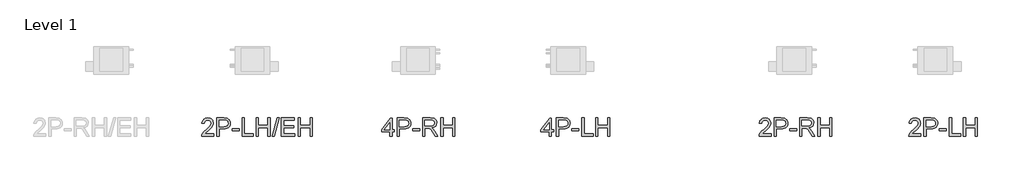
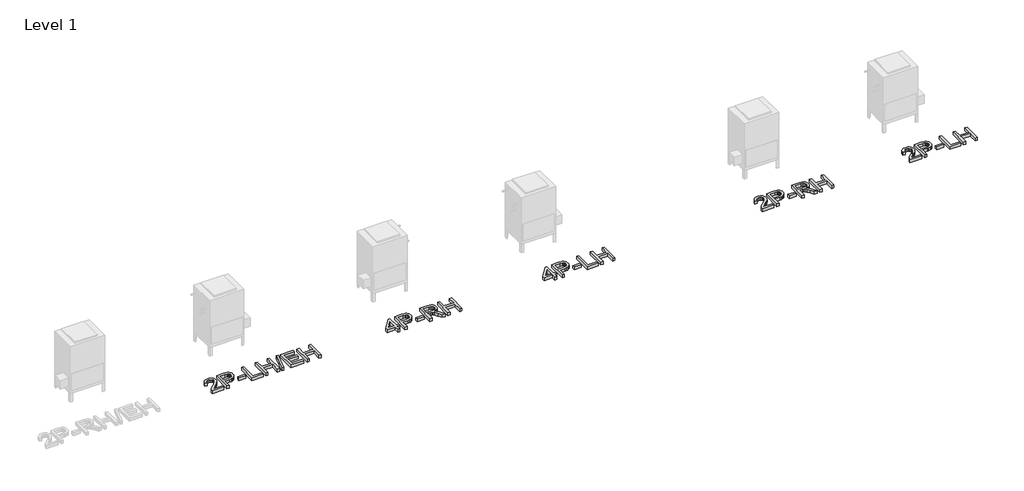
# One storey, part 2 of 2: 5 proxies.
"""IFC4 building model written with IfcOpenShell, lengths in millimetres."""

from ifc_helpers import new_model, si_unit, origin, origin_with_axes, place, context, project, spatial, polyline, outline, extrude, element, save

model = new_model("IFC4")

# Units and contexts
model_context = context("Model", 3, world=origin())
ifc_project = project(units=[si_unit("LENGTHUNIT", "METRE", prefix="MILLI")], contexts=[model_context])

# Site, building, storey
site = spatial("IfcSite", under=ifc_project)
building = spatial("IfcBuilding", under=site)
storey = spatial("IfcBuildingStorey", under=building, Name="Level 1", Elevation=0.0)

# Proxies
placement = place(None, origin())
element("IfcBuildingElementProxy", 1, Name="24\" Arial", ObjectType="24\" Arial", at=placement, inside=storey, context=model_context, shape_type="SweptSolid", body=[
    extrude(outline(polyline([(-19064.4788199, -10849.6503497), (-19064.4788199, -10778.267437), (-19202.4857844, -10778.267437), (-19202.4857844, -10740.1965502), (-19054.9610982, -10549.8421164), (-19026.4079332, -10549.8421164), (-19026.4079332, -10740.1965502), (-18988.3370464, -10740.1965502), (-18988.3370464, -10778.267437), (-19026.4079332, -10778.267437), (-19026.4079332, -10849.6503497), (-19064.4788199, -10849.6503497)]), holes=[polyline([(-19064.4788199, -10740.1965502), (-19064.4788199, -10622.5634587), (-19155.640748, -10740.1965502), (-19064.4788199, -10740.1965502)])]), origin_with_axes(), (0.0, 0.0, 1.0), 50.8),
    extrude(outline(polyline([(-18940.748438, -10849.6503497), (-18940.748438, -10545.0832556), (-18827.8742073, -10545.0832556), (-18782.3676005, -10547.9831864), (-18762.0773793, -10553.4019674), (-18745.3748931, -10562.2225904), (-18731.9255345, -10574.8447252), (-18721.3946959, -10591.6680418), (-18714.591012, -10611.5121198), (-18712.3231174, -10633.1965384), (-18713.854411, -10651.8927271), (-18718.4482918, -10669.0924771), (-18726.1047598, -10684.7957884), (-18736.823815, -10699.002661), (-18751.5395698, -10710.7789827), (-18771.1861364, -10719.190641), (-18795.7635149, -10724.237636), (-18825.2717053, -10725.9199677), (-18902.6775512, -10725.9199677), (-18902.6775512, -10849.6503497), (-18940.748438, -10849.6503497)]), holes=[polyline([(-18902.6775512, -10687.8490809), (-18823.0409893, -10687.8490809), (-18789.2828201, -10684.3542925), (-18766.9756599, -10673.8699272), (-18754.5394181, -10657.0466106), (-18750.3940042, -10634.534968), (-18752.8384971, -10617.4328119), (-18760.1719761, -10603.0075149), (-18771.4835652, -10592.1513636), (-18785.8623889, -10585.7566444), (-18823.9332757, -10583.1541424), (-18902.6775512, -10583.1541424), (-18902.6775512, -10687.8490809)])]), origin_with_axes(), (0.0, 0.0, 1.0), 50.8),
    extrude(outline(polyline([(-18683.7699523, -10759.2319936), (-18683.7699523, -10721.1611069), (-18564.7984312, -10721.1611069), (-18564.7984312, -10759.2319936), (-18683.7699523, -10759.2319936)])), origin_with_axes(), (0.0, 0.0, 1.0), 50.8),
    extrude(outline(polyline([(-18517.2098228, -10849.6503497), (-18517.2098228, -10545.0832556), (-18385.9693635, -10545.0832556), (-18350.6961665, -10547.1373733), (-18325.0336376, -10553.2997263), (-18306.2770337, -10564.676378), (-18291.7216117, -10582.3733917), (-18282.3804883, -10604.3180606), (-18279.2667805, -10628.4376776), (-18284.4253113, -10658.4408081), (-18299.9009037, -10683.3132917), (-18311.6237812, -10693.4491076), (-18326.1582902, -10701.5493952), (-18363.6622033, -10711.6433852), (-18342.0242579, -10727.9276121), (-18311.1660196, -10767.1138569), (-18260.3800516, -10849.6503497), (-18304.622586, -10849.6503497), (-18344.254974, -10786.5210863), (-18372.8824962, -10744.7323395), (-18392.996119, -10724.9905027), (-18411.1020974, -10717.7406756), (-18433.186186, -10716.402246), (-18479.138936, -10716.402246), (-18479.138936, -10849.6503497), (-18517.2098228, -10849.6503497)]), holes=[polyline([(-18479.138936, -10678.3313593), (-18393.925584, -10678.3313593), (-18369.4527703, -10676.983635), (-18350.4638002, -10672.9404622), (-18336.1686284, -10665.932296), (-18325.7772096, -10655.6895916), (-18319.4475529, -10643.2998231), (-18317.3376673, -10629.8504644), (-18321.3622508, -10611.2797535), (-18333.4360012, -10596.3153669), (-18354.2095442, -10586.4444485), (-18384.3335051, -10583.1541424), (-18479.138936, -10583.1541424), (-18479.138936, -10678.3313593)])]), origin_with_axes(), (0.0, 0.0, 1.0), 50.8),
    extrude(outline(polyline([(-18212.6427287, -10849.6503497), (-18212.6427287, -10545.0832556), (-18174.571842, -10545.0832556), (-18174.571842, -10668.8136376), (-18012.7705732, -10668.8136376), (-18012.7705732, -10545.0832556), (-17974.6996865, -10545.0832556), (-17974.6996865, -10849.6503497), (-18012.7705732, -10849.6503497), (-18012.7705732, -10706.8845243), (-18174.571842, -10706.8845243), (-18174.571842, -10849.6503497), (-18212.6427287, -10849.6503497)])), origin_with_axes(), (0.0, 0.0, 1.0), 50.8),
])
element("IfcBuildingElementProxy", 2, Name="24\" Arial", ObjectType="24\" Arial", at=placement, inside=storey, context=model_context, shape_type="SweptSolid", body=[
    extrude(outline(polyline([(-22013.2795196, -10811.5794629), (-22013.2795196, -10849.6503497), (-22213.1516751, -10849.6503497), (-22209.0620291, -10823.4022578), (-22199.6744325, -10802.8889651), (-22185.9369396, -10782.9891192), (-22166.0649778, -10762.1598084), (-22138.273974, -10738.8581206), (-22097.1916206, -10702.3673244), (-22072.5422086, -10675.4314284), (-22060.2175026, -10653.5704114), (-22056.1092672, -10632.304252), (-22059.9851363, -10613.2409247), (-22071.6127436, -10597.3935463), (-22089.4863557, -10586.7139933), (-22112.1002393, -10583.1541424), (-22135.8480703, -10586.6303415), (-22154.2979507, -10597.0589389), (-22166.2043975, -10613.6220053), (-22170.3219275, -10635.5016116), (-22208.3928143, -10630.7427508), (-22205.1187738, -10611.0892132), (-22199.1632267, -10593.9173472), (-22190.5261731, -10579.2271527), (-22179.207613, -10567.0186298), (-22165.4677965, -10557.4219036), (-22149.5669738, -10550.5670991), (-22111.2823101, -10545.0832556), (-22090.8782295, -10546.6075782), (-22072.7188069, -10551.1805461), (-22056.8040423, -10558.8021591), (-22043.1339357, -10569.4724174), (-22032.1546303, -10582.4012757), (-22024.3122693, -10596.7986887), (-22019.6068527, -10612.6646564), (-22018.0383805, -10629.9991788), (-22019.7300068, -10648.2073983), (-22024.8048857, -10666.0995997), (-22033.8114017, -10684.2985246), (-22047.2979389, -10703.4269145), (-22068.7964646, -10726.2638698), (-22101.8389456, -10755.5884908), (-22145.6353369, -10792.2094121), (-22162.8118502, -10811.5794629), (-22013.2795196, -10811.5794629)])), origin_with_axes(), (0.0, 0.0, 1.0), 50.8),
    extrude(outline(polyline([(-21960.9320503, -10849.6503497), (-21960.9320503, -10545.0832556), (-21848.0578197, -10545.0832556), (-21802.5512128, -10547.9831864), (-21782.2609917, -10553.4019674), (-21765.5585055, -10562.2225904), (-21752.1091468, -10574.8447252), (-21741.5783083, -10591.6680418), (-21734.7746244, -10611.5121198), (-21732.5067298, -10633.1965384), (-21734.0380234, -10651.8927271), (-21738.6319042, -10669.0924771), (-21746.2883722, -10684.7957884), (-21757.0074274, -10699.002661), (-21771.7231822, -10710.7789827), (-21791.3697488, -10719.190641), (-21815.9471273, -10724.237636), (-21845.4553176, -10725.9199677), (-21922.8611636, -10725.9199677), (-21922.8611636, -10849.6503497), (-21960.9320503, -10849.6503497)]), holes=[polyline([(-21922.8611636, -10687.8490809), (-21843.2246016, -10687.8490809), (-21809.4664325, -10684.3542925), (-21787.1592723, -10673.8699272), (-21774.7230305, -10657.0466106), (-21770.5776165, -10634.534968), (-21773.0221095, -10617.4328119), (-21780.3555884, -10603.0075149), (-21791.6671776, -10592.1513636), (-21806.0460013, -10585.7566444), (-21844.116888, -10583.1541424), (-21922.8611636, -10583.1541424), (-21922.8611636, -10687.8490809)])]), origin_with_axes(), (0.0, 0.0, 1.0), 50.8),
    extrude(outline(polyline([(-21703.9535647, -10759.2319936), (-21703.9535647, -10721.1611069), (-21584.9820436, -10721.1611069), (-21584.9820436, -10759.2319936), (-21703.9535647, -10759.2319936)])), origin_with_axes(), (0.0, 0.0, 1.0), 50.8),
    extrude(outline(polyline([(-21537.3934351, -10849.6503497), (-21537.3934351, -10545.0832556), (-21499.3225484, -10545.0832556), (-21499.3225484, -10811.5794629), (-21347.0390013, -10811.5794629), (-21347.0390013, -10849.6503497), (-21537.3934351, -10849.6503497)])), origin_with_axes(), (0.0, 0.0, 1.0), 50.8),
    extrude(outline(polyline([(-21304.2092537, -10849.6503497), (-21304.2092537, -10545.0832556), (-21266.138367, -10545.0832556), (-21266.138367, -10668.8136376), (-21104.3370983, -10668.8136376), (-21104.3370983, -10545.0832556), (-21066.2662115, -10545.0832556), (-21066.2662115, -10849.6503497), (-21104.3370983, -10849.6503497), (-21104.3370983, -10706.8845243), (-21266.138367, -10706.8845243), (-21266.138367, -10849.6503497), (-21304.2092537, -10849.6503497)])), origin_with_axes(), (0.0, 0.0, 1.0), 50.8),
    extrude(outline(polyline([(-21032.9541856, -10849.6503497), (-20947.2946904, -10545.0832556), (-20912.9416637, -10545.0832556), (-20998.6011589, -10849.6503497), (-21032.9541856, -10849.6503497)])), origin_with_axes(), (0.0, 0.0, 1.0), 50.8),
    extrude(outline(polyline([(-20880.6706385, -10849.6503497), (-20880.6706385, -10545.0832556), (-20661.7630397, -10545.0832556), (-20661.7630397, -10583.1541424), (-20842.5997518, -10583.1541424), (-20842.5997518, -10673.5724984), (-20671.2807614, -10673.5724984), (-20671.2807614, -10711.6433852), (-20842.5997518, -10711.6433852), (-20842.5997518, -10811.5794629), (-20657.0041788, -10811.5794629), (-20657.0041788, -10849.6503497), (-20880.6706385, -10849.6503497)])), origin_with_axes(), (0.0, 0.0, 1.0), 50.8),
    extrude(outline(polyline([(-20599.8978487, -10849.6503497), (-20599.8978487, -10545.0832556), (-20561.8269619, -10545.0832556), (-20561.8269619, -10668.8136376), (-20400.0256932, -10668.8136376), (-20400.0256932, -10545.0832556), (-20361.9548065, -10545.0832556), (-20361.9548065, -10849.6503497), (-20400.0256932, -10849.6503497), (-20400.0256932, -10706.8845243), (-20561.8269619, -10706.8845243), (-20561.8269619, -10849.6503497), (-20599.8978487, -10849.6503497)])), origin_with_axes(), (0.0, 0.0, 1.0), 50.8),
])
element("IfcBuildingElementProxy", 3, Name="24\" Arial", ObjectType="24\" Arial", at=placement, inside=storey, context=model_context, shape_type="SweptSolid", body=[
    extrude(outline(polyline([(-16399.9579183, -10849.6503497), (-16399.9579183, -10778.267437), (-16537.9648828, -10778.267437), (-16537.9648828, -10740.1965502), (-16390.4401966, -10549.8421164), (-16361.8870316, -10549.8421164), (-16361.8870316, -10740.1965502), (-16323.8161448, -10740.1965502), (-16323.8161448, -10778.267437), (-16361.8870316, -10778.267437), (-16361.8870316, -10849.6503497), (-16399.9579183, -10849.6503497)]), holes=[polyline([(-16399.9579183, -10740.1965502), (-16399.9579183, -10622.5634587), (-16491.1198464, -10740.1965502), (-16399.9579183, -10740.1965502)])]), origin_with_axes(), (0.0, 0.0, 1.0), 50.8),
    extrude(outline(polyline([(-16276.2275364, -10849.6503497), (-16276.2275364, -10545.0832556), (-16163.3533057, -10545.0832556), (-16117.8466989, -10547.9831864), (-16097.5564777, -10553.4019674), (-16080.8539915, -10562.2225904), (-16067.4046329, -10574.8447252), (-16056.8737943, -10591.6680418), (-16050.0701104, -10611.5121198), (-16047.8022158, -10633.1965384), (-16049.3335094, -10651.8927271), (-16053.9273902, -10669.0924771), (-16061.5838582, -10684.7957884), (-16072.3029134, -10699.002661), (-16087.0186682, -10710.7789827), (-16106.6652348, -10719.190641), (-16131.2426133, -10724.237636), (-16160.7508037, -10725.9199677), (-16238.1566496, -10725.9199677), (-16238.1566496, -10849.6503497), (-16276.2275364, -10849.6503497)]), holes=[polyline([(-16238.1566496, -10687.8490809), (-16158.5200877, -10687.8490809), (-16124.7619185, -10684.3542925), (-16102.4547583, -10673.8699272), (-16090.0185165, -10657.0466106), (-16085.8731026, -10634.534968), (-16088.3175956, -10617.4328119), (-16095.6510745, -10603.0075149), (-16106.9626636, -10592.1513636), (-16121.3414873, -10585.7566444), (-16159.4123741, -10583.1541424), (-16238.1566496, -10583.1541424), (-16238.1566496, -10687.8490809)])]), origin_with_axes(), (0.0, 0.0, 1.0), 50.8),
    extrude(outline(polyline([(-16019.2490507, -10759.2319936), (-16019.2490507, -10721.1611069), (-15900.2775296, -10721.1611069), (-15900.2775296, -10759.2319936), (-16019.2490507, -10759.2319936)])), origin_with_axes(), (0.0, 0.0, 1.0), 50.8),
    extrude(outline(polyline([(-15852.6889212, -10849.6503497), (-15852.6889212, -10545.0832556), (-15814.6180344, -10545.0832556), (-15814.6180344, -10811.5794629), (-15662.3344874, -10811.5794629), (-15662.3344874, -10849.6503497), (-15852.6889212, -10849.6503497)])), origin_with_axes(), (0.0, 0.0, 1.0), 50.8),
    extrude(outline(polyline([(-15619.5047398, -10849.6503497), (-15619.5047398, -10545.0832556), (-15581.433853, -10545.0832556), (-15581.433853, -10668.8136376), (-15419.6325843, -10668.8136376), (-15419.6325843, -10545.0832556), (-15381.5616975, -10545.0832556), (-15381.5616975, -10849.6503497), (-15419.6325843, -10849.6503497), (-15419.6325843, -10706.8845243), (-15581.433853, -10706.8845243), (-15581.433853, -10849.6503497), (-15619.5047398, -10849.6503497)])), origin_with_axes(), (0.0, 0.0, 1.0), 50.8),
])
element("IfcBuildingElementProxy", 4, Name="24\" Arial", ObjectType="24\" Arial", at=placement, inside=storey, context=model_context, shape_type="SweptSolid", body=[
    extrude(outline(polyline([(-12683.5732104, -10811.5794629), (-12683.5732104, -10849.6503497), (-12883.4453659, -10849.6503497), (-12879.3557199, -10823.4022578), (-12869.9681233, -10802.8889651), (-12856.2306304, -10782.9891192), (-12836.3586685, -10762.1598084), (-12808.5676648, -10738.8581206), (-12767.4853114, -10702.3673244), (-12742.8358994, -10675.4314284), (-12730.5111934, -10653.5704114), (-12726.402958, -10632.304252), (-12730.2788271, -10613.2409247), (-12741.9064344, -10597.3935463), (-12759.7800465, -10586.7139933), (-12782.3939301, -10583.1541424), (-12806.1417611, -10586.6303415), (-12824.5916415, -10597.0589389), (-12836.4980883, -10613.6220053), (-12840.6156183, -10635.5016116), (-12878.686505, -10630.7427508), (-12875.4124646, -10611.0892132), (-12869.4569175, -10593.9173472), (-12860.8198639, -10579.2271527), (-12849.5013038, -10567.0186298), (-12835.7614873, -10557.4219036), (-12819.8606646, -10550.5670991), (-12781.5760009, -10545.0832556), (-12761.1719203, -10546.6075782), (-12743.0124977, -10551.1805461), (-12727.0977331, -10558.8021591), (-12713.4276265, -10569.4724174), (-12702.4483211, -10582.4012757), (-12694.6059601, -10596.7986887), (-12689.9005435, -10612.6646564), (-12688.3320713, -10629.9991788), (-12690.0236976, -10648.2073983), (-12695.0985765, -10666.0995997), (-12704.1050925, -10684.2985246), (-12717.5916297, -10703.4269145), (-12739.0901554, -10726.2638698), (-12772.1326364, -10755.5884908), (-12815.9290277, -10792.2094121), (-12833.105541, -10811.5794629), (-12683.5732104, -10811.5794629)])), origin_with_axes(), (0.0, 0.0, 1.0), 50.8),
    extrude(outline(polyline([(-12631.2257411, -10849.6503497), (-12631.2257411, -10545.0832556), (-12518.3515105, -10545.0832556), (-12472.8449036, -10547.9831864), (-12452.5546825, -10553.4019674), (-12435.8521963, -10562.2225904), (-12422.4028376, -10574.8447252), (-12411.8719991, -10591.6680418), (-12405.0683152, -10611.5121198), (-12402.8004206, -10633.1965384), (-12404.3317142, -10651.8927271), (-12408.925595, -10669.0924771), (-12416.582063, -10684.7957884), (-12427.3011182, -10699.002661), (-12442.0168729, -10710.7789827), (-12461.6634396, -10719.190641), (-12486.2408181, -10724.237636), (-12515.7490084, -10725.9199677), (-12593.1548544, -10725.9199677), (-12593.1548544, -10849.6503497), (-12631.2257411, -10849.6503497)]), holes=[polyline([(-12593.1548544, -10687.8490809), (-12513.5182924, -10687.8490809), (-12479.7601233, -10684.3542925), (-12457.4529631, -10673.8699272), (-12445.0167213, -10657.0466106), (-12440.8713073, -10634.534968), (-12443.3158003, -10617.4328119), (-12450.6492792, -10603.0075149), (-12461.9608684, -10592.1513636), (-12476.3396921, -10585.7566444), (-12514.4105788, -10583.1541424), (-12593.1548544, -10583.1541424), (-12593.1548544, -10687.8490809)])]), origin_with_axes(), (0.0, 0.0, 1.0), 50.8),
    extrude(outline(polyline([(-12374.2472555, -10759.2319936), (-12374.2472555, -10721.1611069), (-12255.2757344, -10721.1611069), (-12255.2757344, -10759.2319936), (-12374.2472555, -10759.2319936)])), origin_with_axes(), (0.0, 0.0, 1.0), 50.8),
    extrude(outline(polyline([(-12207.6871259, -10849.6503497), (-12207.6871259, -10545.0832556), (-12076.4466667, -10545.0832556), (-12041.1734696, -10547.1373733), (-12015.5109407, -10553.2997263), (-11996.7543368, -10564.676378), (-11982.1989148, -10582.3733917), (-11972.8577915, -10604.3180606), (-11969.7440837, -10628.4376776), (-11974.9026145, -10658.4408081), (-11990.3782069, -10683.3132917), (-12002.1010843, -10693.4491076), (-12016.6355934, -10701.5493952), (-12054.1395065, -10711.6433852), (-12032.5015611, -10727.9276121), (-12001.6433228, -10767.1138569), (-11950.8573547, -10849.6503497), (-11995.0998891, -10849.6503497), (-12034.7322771, -10786.5210863), (-12063.3597994, -10744.7323395), (-12083.4734222, -10724.9905027), (-12101.5794005, -10717.7406756), (-12123.6634891, -10716.402246), (-12169.6162392, -10716.402246), (-12169.6162392, -10849.6503497), (-12207.6871259, -10849.6503497)]), holes=[polyline([(-12169.6162392, -10678.3313593), (-12084.4028872, -10678.3313593), (-12059.9300735, -10676.983635), (-12040.9411034, -10672.9404622), (-12026.6459315, -10665.932296), (-12016.2545127, -10655.6895916), (-12009.924856, -10643.2998231), (-12007.8149704, -10629.8504644), (-12011.8395539, -10611.2797535), (-12023.9133044, -10596.3153669), (-12044.6868473, -10586.4444485), (-12074.8108083, -10583.1541424), (-12169.6162392, -10583.1541424), (-12169.6162392, -10678.3313593)])]), origin_with_axes(), (0.0, 0.0, 1.0), 50.8),
    extrude(outline(polyline([(-11903.1200319, -10849.6503497), (-11903.1200319, -10545.0832556), (-11865.0491451, -10545.0832556), (-11865.0491451, -10668.8136376), (-11703.2478764, -10668.8136376), (-11703.2478764, -10545.0832556), (-11665.1769896, -10545.0832556), (-11665.1769896, -10849.6503497), (-11703.2478764, -10849.6503497), (-11703.2478764, -10706.8845243), (-11865.0491451, -10706.8845243), (-11865.0491451, -10849.6503497), (-11903.1200319, -10849.6503497)])), origin_with_axes(), (0.0, 0.0, 1.0), 50.8),
])
element("IfcBuildingElementProxy", 5, Name="24\" Arial", ObjectType="24\" Arial", at=placement, inside=storey, context=model_context, shape_type="SweptSolid", body=[
    extrude(outline(polyline([(-10176.8795196, -10811.5794629), (-10176.8795196, -10849.6503497), (-10376.7516751, -10849.6503497), (-10372.6620291, -10823.4022578), (-10363.2744325, -10802.8889651), (-10349.5369396, -10782.9891192), (-10329.6649778, -10762.1598084), (-10301.873974, -10738.8581206), (-10260.7916206, -10702.3673244), (-10236.1422086, -10675.4314284), (-10223.8175026, -10653.5704114), (-10219.7092672, -10632.304252), (-10223.5851363, -10613.2409247), (-10235.2127436, -10597.3935463), (-10253.0863557, -10586.7139933), (-10275.7002393, -10583.1541424), (-10299.4480703, -10586.6303415), (-10317.8979507, -10597.0589389), (-10329.8043975, -10613.6220053), (-10333.9219275, -10635.5016116), (-10371.9928143, -10630.7427508), (-10368.7187738, -10611.0892132), (-10362.7632267, -10593.9173472), (-10354.1261731, -10579.2271527), (-10342.807613, -10567.0186298), (-10329.0677965, -10557.4219036), (-10313.1669738, -10550.5670991), (-10274.8823101, -10545.0832556), (-10254.4782295, -10546.6075782), (-10236.3188069, -10551.1805461), (-10220.4040423, -10558.8021591), (-10206.7339357, -10569.4724174), (-10195.7546303, -10582.4012757), (-10187.9122693, -10596.7986887), (-10183.2068527, -10612.6646564), (-10181.6383805, -10629.9991788), (-10183.3300068, -10648.2073983), (-10188.4048857, -10666.0995997), (-10197.4114017, -10684.2985246), (-10210.8979389, -10703.4269145), (-10232.3964646, -10726.2638698), (-10265.4389456, -10755.5884908), (-10309.2353369, -10792.2094121), (-10326.4118502, -10811.5794629), (-10176.8795196, -10811.5794629)])), origin_with_axes(), (0.0, 0.0, 1.0), 50.8),
    extrude(outline(polyline([(-10124.5320503, -10849.6503497), (-10124.5320503, -10545.0832556), (-10011.6578197, -10545.0832556), (-9966.1512128, -10547.9831864), (-9945.8609917, -10553.4019674), (-9929.1585055, -10562.2225904), (-9915.7091468, -10574.8447252), (-9905.1783083, -10591.6680418), (-9898.3746244, -10611.5121198), (-9896.1067298, -10633.1965384), (-9897.6380234, -10651.8927271), (-9902.2319042, -10669.0924771), (-9909.8883722, -10684.7957884), (-9920.6074274, -10699.002661), (-9935.3231822, -10710.7789827), (-9954.9697488, -10719.190641), (-9979.5471273, -10724.237636), (-10009.0553176, -10725.9199677), (-10086.4611636, -10725.9199677), (-10086.4611636, -10849.6503497), (-10124.5320503, -10849.6503497)]), holes=[polyline([(-10086.4611636, -10687.8490809), (-10006.8246016, -10687.8490809), (-9973.0664325, -10684.3542925), (-9950.7592723, -10673.8699272), (-9938.3230305, -10657.0466106), (-9934.1776165, -10634.534968), (-9936.6221095, -10617.4328119), (-9943.9555884, -10603.0075149), (-9955.2671776, -10592.1513636), (-9969.6460013, -10585.7566444), (-10007.716888, -10583.1541424), (-10086.4611636, -10583.1541424), (-10086.4611636, -10687.8490809)])]), origin_with_axes(), (0.0, 0.0, 1.0), 50.8),
    extrude(outline(polyline([(-9867.5535647, -10759.2319936), (-9867.5535647, -10721.1611069), (-9748.5820436, -10721.1611069), (-9748.5820436, -10759.2319936), (-9867.5535647, -10759.2319936)])), origin_with_axes(), (0.0, 0.0, 1.0), 50.8),
    extrude(outline(polyline([(-9700.9934351, -10849.6503497), (-9700.9934351, -10545.0832556), (-9662.9225484, -10545.0832556), (-9662.9225484, -10811.5794629), (-9510.6390013, -10811.5794629), (-9510.6390013, -10849.6503497), (-9700.9934351, -10849.6503497)])), origin_with_axes(), (0.0, 0.0, 1.0), 50.8),
    extrude(outline(polyline([(-9467.8092537, -10849.6503497), (-9467.8092537, -10545.0832556), (-9429.738367, -10545.0832556), (-9429.738367, -10668.8136376), (-9267.9370983, -10668.8136376), (-9267.9370983, -10545.0832556), (-9229.8662115, -10545.0832556), (-9229.8662115, -10849.6503497), (-9267.9370983, -10849.6503497), (-9267.9370983, -10706.8845243), (-9429.738367, -10706.8845243), (-9429.738367, -10849.6503497), (-9467.8092537, -10849.6503497)])), origin_with_axes(), (0.0, 0.0, 1.0), 50.8),
])

save(model, "model.ifc")
